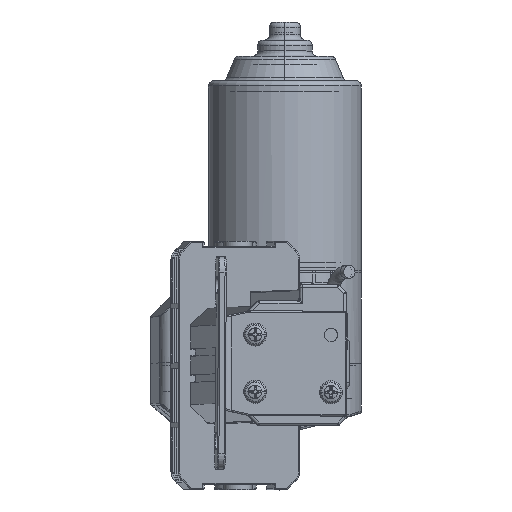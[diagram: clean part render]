
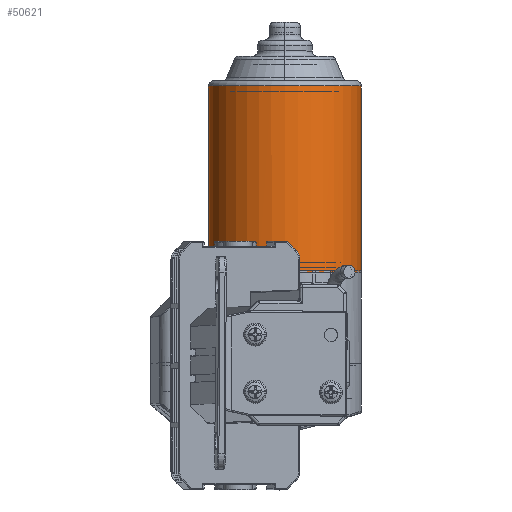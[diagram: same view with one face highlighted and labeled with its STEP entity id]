
A CAD part, top view. The second image highlights one B-rep face of the part: STEP entity #50621.
In plain terms, the highlighted cylindrical face has radius 29.5 mm (diameter 59 mm), a partial arc.
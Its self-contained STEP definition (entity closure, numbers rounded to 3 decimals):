
#48868=CARTESIAN_POINT('',(0.,49.5,0.));
#48869=DIRECTION('',(0.,1.,0.));
#48870=DIRECTION('',(-1.,0.,0.));
#48871=AXIS2_PLACEMENT_3D('',#48868,#48869,#48870);
#48883=DIRECTION('',(0.,-1.,0.));
#48884=VECTOR('',#48883,72.);
#48885=CARTESIAN_POINT('',(-29.5,121.5,0.));
#48886=LINE('',#48885,#48884);
#48887=DIRECTION('',(0.,1.,0.));
#48888=VECTOR('',#48887,72.);
#48889=CARTESIAN_POINT('',(29.5,49.5,0.));
#48890=LINE('',#48889,#48888);
#48951=CARTESIAN_POINT('',(0.,121.5,0.));
#48952=DIRECTION('',(0.,-1.,0.));
#48953=DIRECTION('',(1.,0.,0.));
#48954=AXIS2_PLACEMENT_3D('',#48951,#48952,#48953);
#48956=CARTESIAN_POINT('',(0.,121.5,0.));
#48957=DIRECTION('',(0.,-1.,0.));
#48958=DIRECTION('',(1.,0.,0.007));
#48959=AXIS2_PLACEMENT_3D('',#48956,#48957,#48958);
#50157=CARTESIAN_POINT('',(29.5,49.5,0.));
#50158=CARTESIAN_POINT('',(-29.5,49.5,0.));
#50159=VERTEX_POINT('',#50157);
#50160=VERTEX_POINT('',#50158);
#50165=CARTESIAN_POINT('',(-29.5,121.5,0.));
#50167=VERTEX_POINT('',#50165);
#50169=CARTESIAN_POINT('',(29.5,121.5,0.));
#50170=VERTEX_POINT('',#50169);
#50187=CARTESIAN_POINT('',(29.499,121.5,0.196));
#50188=VERTEX_POINT('',#50187);
#50609=CARTESIAN_POINT('',(0.,48.06,0.));
#50610=DIRECTION('',(0.,1.,0.));
#50611=DIRECTION('',(1.,0.,0.));
#50612=AXIS2_PLACEMENT_3D('',#50609,#50610,#50611);
#50613=CYLINDRICAL_SURFACE('',#50612,29.5);
#50614=ORIENTED_EDGE('',*,*,#50603,.F.);
#50615=ORIENTED_EDGE('',*,*,#50601,.F.);
#50616=ORIENTED_EDGE('',*,*,#50546,.F.);
#50617=ORIENTED_EDGE('',*,*,#50523,.F.);
#50618=ORIENTED_EDGE('',*,*,#50543,.F.);
#50619=EDGE_LOOP('',(#50614,#50615,#50616,#50617,#50618));
#50620=FACE_OUTER_BOUND('',#50619,.F.);
#50621=ADVANCED_FACE('',(#50620),#50613,.T.);
#48872=CIRCLE('',#48871,29.5);
#48955=CIRCLE('',#48954,29.5);
#48960=CIRCLE('',#48959,29.5);
#50523=EDGE_CURVE('',#50160,#50159,#48872,.T.);
#50543=EDGE_CURVE('',#50167,#50160,#48886,.T.);
#50546=EDGE_CURVE('',#50159,#50170,#48890,.T.);
#50601=EDGE_CURVE('',#50170,#50188,#48955,.T.);
#50603=EDGE_CURVE('',#50188,#50167,#48960,.T.);
